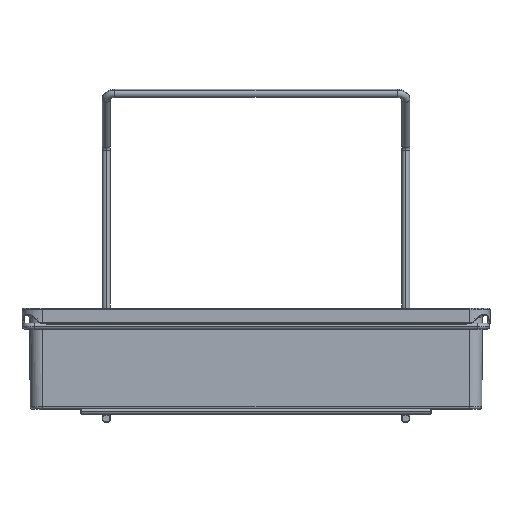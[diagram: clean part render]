
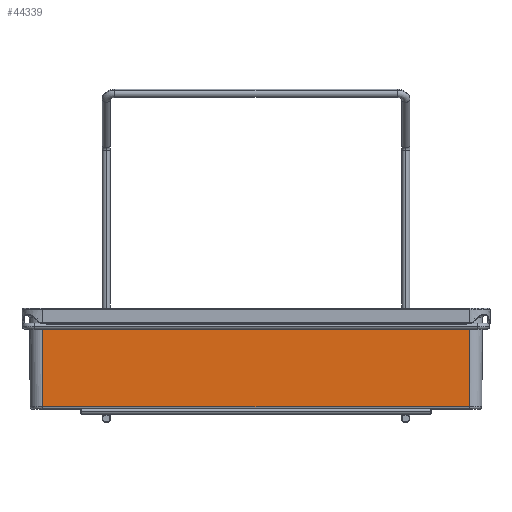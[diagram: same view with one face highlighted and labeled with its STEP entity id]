
A CAD part, top view. The second image highlights one B-rep face of the part: STEP entity #44339.
In plain terms, the highlighted planar face has unit normal (0, -0.009, 1).
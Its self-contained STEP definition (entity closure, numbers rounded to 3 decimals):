
#13527=CARTESIAN_POINT('',(200.741,-87.017,
48.241));
#13566=DIRECTION('',(-1.,0.,0.));
#13567=VECTOR('',#13566,402.949);
#13568=CARTESIAN_POINT('',(201.474,-2.978,
48.974));
#13569=LINE('',#13568,#13567);
#13573=DIRECTION('',(0.009,1.,0.009));
#13574=VECTOR('',#13573,84.046);
#13575=CARTESIAN_POINT('',(200.741,-87.017,
48.241));
#13576=LINE('',#13575,#13574);
#13580=DIRECTION('',(-1.,0.,0.));
#13581=VECTOR('',#13580,401.482);
#13582=CARTESIAN_POINT('',(200.741,-87.017,
48.241));
#13583=LINE('',#13582,#13581);
#13587=DIRECTION('',(-0.009,1.,0.009));
#13588=VECTOR('',#13587,84.046);
#13589=CARTESIAN_POINT('',(-200.741,-87.017,
48.241));
#13590=LINE('',#13589,#13588);
#34303=VERTEX_POINT('',#13527);
#34306=CARTESIAN_POINT('',(-200.741,-87.017,
48.241));
#34307=VERTEX_POINT('',#34306);
#34400=CARTESIAN_POINT('',(201.474,-2.978,
48.974));
#34401=CARTESIAN_POINT('',(-201.474,-2.978,
48.974));
#34402=VERTEX_POINT('',#34400);
#34403=VERTEX_POINT('',#34401);
#44326=CARTESIAN_POINT('',(-213.5,0.,49.));
#44327=DIRECTION('',(0.,-0.009,1.));
#44328=DIRECTION('',(-1.,0.,0.));
#44329=AXIS2_PLACEMENT_3D('',#44326,#44327,#44328);
#44330=PLANE('',#44329);
#44332=ORIENTED_EDGE('',*,*,#44331,.F.);
#44333=ORIENTED_EDGE('',*,*,#44316,.F.);
#44334=ORIENTED_EDGE('',*,*,#37066,.T.);
#44336=ORIENTED_EDGE('',*,*,#44335,.T.);
#44337=EDGE_LOOP('',(#44332,#44333,#44334,#44336));
#44338=FACE_OUTER_BOUND('',#44337,.F.);
#37066=EDGE_CURVE('',#34303,#34307,#13583,.T.);
#44316=EDGE_CURVE('',#34303,#34402,#13576,.T.);
#44331=EDGE_CURVE('',#34402,#34403,#13569,.T.);
#44335=EDGE_CURVE('',#34307,#34403,#13590,.T.);
#44339=ADVANCED_FACE('',(#44338),#44330,.T.);
